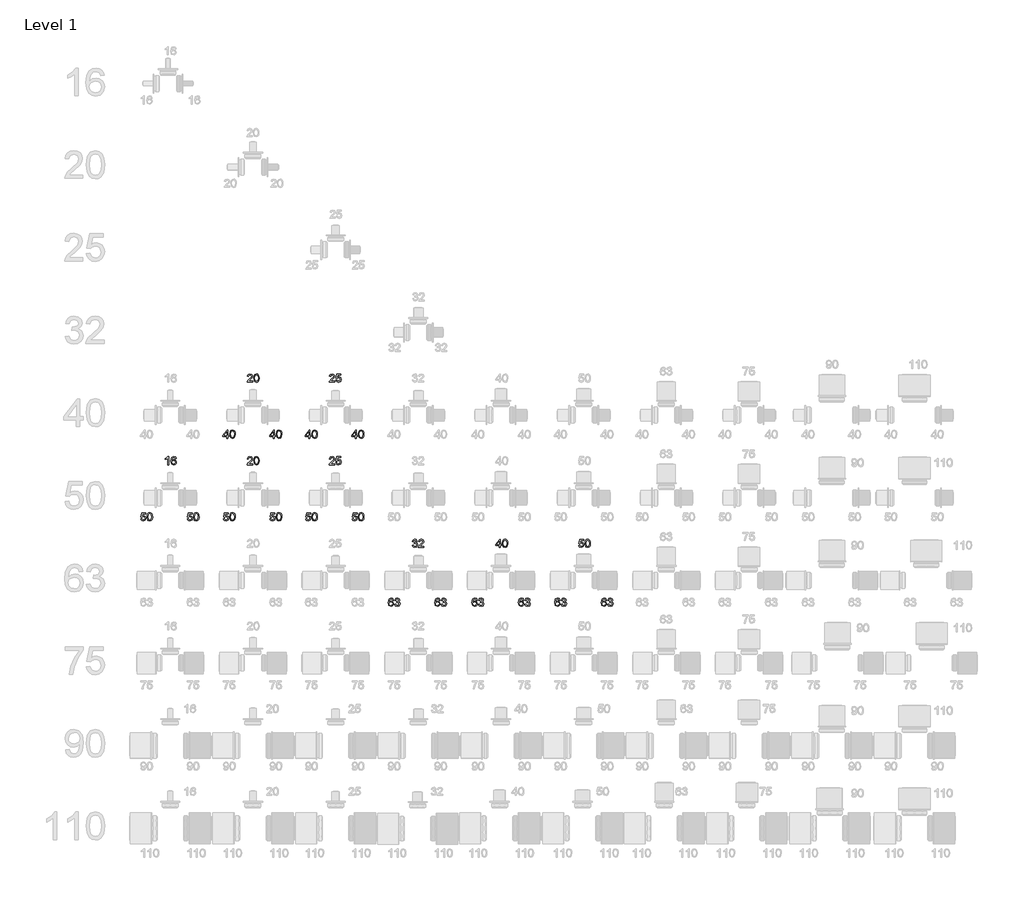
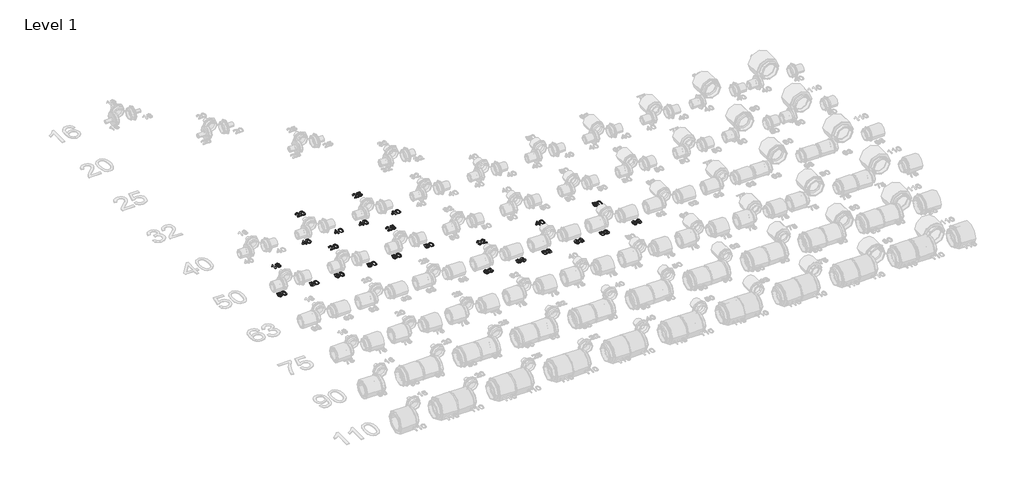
# One storey, part 21 of 58: 24 proxies.
"""IFC4 building model written with IfcOpenShell, lengths in millimetres."""

from ifc_helpers import new_model, si_unit, frame, origin, place, context, project, spatial, polyline, outline, extrude, element, save

model = new_model("IFC4")

# Units and contexts
model_context = context("Model", 3, world=origin())
ifc_project = project(units=[si_unit("LENGTHUNIT", "METRE", prefix="MILLI")], contexts=[model_context])

# Site, building, storey
site = spatial("IfcSite", under=ifc_project)
building = spatial("IfcBuilding", under=site)
storey = spatial("IfcBuildingStorey", under=building, Name="Level 1", Elevation=27.3876384)

# Proxies
placement = place(None, origin())
element("IfcBuildingElementProxy", 1, Name="30mm Arial", ObjectType="30mm Arial", at=placement, inside=storey, context=model_context, shape_type="SweptSolid", body=[
    extrude(outline(polyline([(13470.7785428, 17362.5788539), (13470.7785428, 17369.6421882), (13457.1227632, 17369.6421882), (13457.1227632, 17373.4092999), (13471.7203207, 17392.244858), (13474.5456545, 17392.244858), (13474.5456545, 17373.4092999), (13478.3127661, 17373.4092999), (13478.3127661, 17369.6421882), (13474.5456545, 17369.6421882), (13474.5456545, 17362.5788539), (13470.7785428, 17362.5788539)]), holes=[polyline([(13470.7785428, 17373.4092999), (13470.7785428, 17385.0490862), (13461.7580763, 17373.4092999), (13470.7785428, 17373.4092999)])]), frame((0.0, 0.0, 27.3876384), z_axis=(0.0, 0.0, 1.0), x_axis=(1.0, 0.0, 0.0)), (0.0, 0.0, 1.0), 2.0),
    extrude(outline(polyline([(13481.6089888, 17377.4044983), (13482.7163136, 17386.075477), (13486.0051786, 17391.0749933), (13491.4976568, 17392.715747), (13495.8975255, 17391.7445385), (13498.9362307, 17388.9449565), (13500.7020643, 17384.4862267), (13501.3863248, 17377.4044983), (13500.2900365, 17368.7703079), (13497.0122079, 17363.7597551), (13491.4976568, 17362.107965), (13484.6109058, 17364.9774445), (13481.6089888, 17377.4044983)]), holes=[polyline([(13485.3761004, 17377.411856), (13487.141934, 17368.0566168), (13491.4976568, 17365.8750766), (13495.8533796, 17368.0639745), (13497.6192132, 17377.411856), (13495.9122407, 17386.6604093), (13491.453511, 17388.9486353), (13487.2007951, 17386.932642), (13485.3761004, 17377.411856)])]), frame((0.0, 0.0, 27.3876384), z_axis=(0.0, 0.0, 1.0), x_axis=(1.0, 0.0, 0.0)), (0.0, 0.0, 1.0), 2.0),
])
element("IfcBuildingElementProxy", 2, Name="30mm Arial", ObjectType="30mm Arial", at=placement, inside=storey, context=model_context, shape_type="SweptSolid", body=[
    extrude(outline(polyline([(13639.5285428, 17362.5788539), (13639.5285428, 17369.6421882), (13625.8727632, 17369.6421882), (13625.8727632, 17373.4092999), (13640.4703207, 17392.244858), (13643.2956545, 17392.244858), (13643.2956545, 17373.4092999), (13647.0627661, 17373.4092999), (13647.0627661, 17369.6421882), (13643.2956545, 17369.6421882), (13643.2956545, 17362.5788539), (13639.5285428, 17362.5788539)]), holes=[polyline([(13639.5285428, 17373.4092999), (13639.5285428, 17385.0490862), (13630.5080763, 17373.4092999), (13639.5285428, 17373.4092999)])]), frame((0.0, 0.0, 27.3876384), z_axis=(0.0, 0.0, 1.0), x_axis=(1.0, 0.0, 0.0)), (0.0, 0.0, 1.0), 2.0),
    extrude(outline(polyline([(13650.3589888, 17377.4044983), (13651.4663136, 17386.075477), (13654.7551786, 17391.0749933), (13660.2476568, 17392.715747), (13664.6475255, 17391.7445385), (13667.6862307, 17388.9449565), (13669.4520643, 17384.4862267), (13670.1363248, 17377.4044983), (13669.0400365, 17368.7703079), (13665.7622079, 17363.7597551), (13660.2476568, 17362.107965), (13653.3609058, 17364.9774445), (13650.3589888, 17377.4044983)]), holes=[polyline([(13654.1261004, 17377.411856), (13655.891934, 17368.0566168), (13660.2476568, 17365.8750766), (13664.6033796, 17368.0639745), (13666.3692132, 17377.411856), (13664.6622407, 17386.6604093), (13660.203511, 17388.9486353), (13655.9507951, 17386.932642), (13654.1261004, 17377.411856)])]), frame((0.0, 0.0, 27.3876384), z_axis=(0.0, 0.0, 1.0), x_axis=(1.0, 0.0, 0.0)), (0.0, 0.0, 1.0), 2.0),
])
element("IfcBuildingElementProxy", 3, Name="30mm Arial", ObjectType="30mm Arial", at=placement, inside=storey, context=model_context, shape_type="SweptSolid", body=[
    extrude(outline(polyline([(13564.7700619, 17570.1646061), (13564.7700619, 17566.3974945), (13544.9927259, 17566.3974945), (13545.3973961, 17568.9947414), (13547.6856221, 17572.9936187), (13552.4018693, 17577.3603779), (13558.9060229, 17583.6364448), (13560.5320614, 17587.9038759), (13558.9979934, 17591.3582879), (13554.9917585, 17592.7672759), (13550.8162979, 17591.3913972), (13549.2307265, 17587.5874974), (13545.4636148, 17588.0583864), (13548.3514885, 17594.3638838), (13555.0726925, 17596.5343875), (13561.8159695, 17594.1210816), (13564.299173, 17588.1319628), (13563.6296278, 17584.5598286), (13561.4039417, 17580.8662934), (13556.0071128, 17575.704909), (13551.6734629, 17572.0812713), (13549.9738481, 17570.1646061), (13564.7700619, 17570.1646061)])), frame((0.0, 0.0, 27.3876384), z_axis=(0.0, 0.0, 1.0), x_axis=(1.0, 0.0, 0.0)), (0.0, 0.0, 1.0), 2.0),
    extrude(outline(polyline([(13568.5371736, 17581.2231389), (13569.6444984, 17589.8941175), (13572.9333634, 17594.8936338), (13578.4258416, 17596.5343875), (13582.8257103, 17595.5631791), (13585.8644155, 17592.7635971), (13587.6302491, 17588.3048673), (13588.3145096, 17581.2231389), (13587.2182213, 17572.5889485), (13583.9403927, 17567.5783957), (13578.4258416, 17565.9266055), (13571.5390906, 17568.7960851), (13568.5371736, 17581.2231389)]), holes=[polyline([(13572.3042852, 17581.2304965), (13574.0701188, 17571.8752574), (13578.4258416, 17569.6937172), (13582.7815644, 17571.882615), (13584.547398, 17581.2304965), (13582.8404255, 17590.4790499), (13578.3816958, 17592.7672759), (13574.1289799, 17590.7512826), (13572.3042852, 17581.2304965)])]), frame((0.0, 0.0, 27.3876384), z_axis=(0.0, 0.0, 1.0), x_axis=(1.0, 0.0, 0.0)), (0.0, 0.0, 1.0), 2.0),
])
element("IfcBuildingElementProxy", 4, Name="30mm Arial", ObjectType="30mm Arial", at=placement, inside=storey, context=model_context, shape_type="SweptSolid", body=[
    extrude(outline(polyline([(13768.7785428, 17362.5788539), (13768.7785428, 17369.6421882), (13755.1227632, 17369.6421882), (13755.1227632, 17373.4092999), (13769.7203207, 17392.244858), (13772.5456545, 17392.244858), (13772.5456545, 17373.4092999), (13776.3127661, 17373.4092999), (13776.3127661, 17369.6421882), (13772.5456545, 17369.6421882), (13772.5456545, 17362.5788539), (13768.7785428, 17362.5788539)]), holes=[polyline([(13768.7785428, 17373.4092999), (13768.7785428, 17385.0490862), (13759.7580763, 17373.4092999), (13768.7785428, 17373.4092999)])]), frame((0.0, 0.0, 27.3876384), z_axis=(0.0, 0.0, 1.0), x_axis=(1.0, 0.0, 0.0)), (0.0, 0.0, 1.0), 2.0),
    extrude(outline(polyline([(13779.6089888, 17377.4044983), (13780.7163136, 17386.075477), (13784.0051786, 17391.0749933), (13789.4976568, 17392.715747), (13793.8975255, 17391.7445385), (13796.9362307, 17388.9449565), (13798.7020643, 17384.4862267), (13799.3863248, 17377.4044983), (13798.2900365, 17368.7703079), (13795.0122079, 17363.7597551), (13789.4976568, 17362.107965), (13782.6109058, 17364.9774445), (13779.6089888, 17377.4044983)]), holes=[polyline([(13783.3761004, 17377.411856), (13785.141934, 17368.0566168), (13789.4976568, 17365.8750766), (13793.8533796, 17368.0639745), (13795.6192132, 17377.411856), (13793.9122407, 17386.6604093), (13789.453511, 17388.9486353), (13785.2007951, 17386.932642), (13783.3761004, 17377.411856)])]), frame((0.0, 0.0, 27.3876384), z_axis=(0.0, 0.0, 1.0), x_axis=(1.0, 0.0, 0.0)), (0.0, 0.0, 1.0), 2.0),
])
element("IfcBuildingElementProxy", 5, Name="30mm Arial", ObjectType="30mm Arial", at=placement, inside=storey, context=model_context, shape_type="SweptSolid", body=[
    extrude(outline(polyline([(13937.5285428, 17362.5788539), (13937.5285428, 17369.6421882), (13923.8727632, 17369.6421882), (13923.8727632, 17373.4092999), (13938.4703207, 17392.244858), (13941.2956545, 17392.244858), (13941.2956545, 17373.4092999), (13945.0627661, 17373.4092999), (13945.0627661, 17369.6421882), (13941.2956545, 17369.6421882), (13941.2956545, 17362.5788539), (13937.5285428, 17362.5788539)]), holes=[polyline([(13937.5285428, 17373.4092999), (13937.5285428, 17385.0490862), (13928.5080763, 17373.4092999), (13937.5285428, 17373.4092999)])]), frame((0.0, 0.0, 27.3876384), z_axis=(0.0, 0.0, 1.0), x_axis=(1.0, 0.0, 0.0)), (0.0, 0.0, 1.0), 2.0),
    extrude(outline(polyline([(13948.3589888, 17377.4044983), (13949.4663136, 17386.075477), (13952.7551786, 17391.0749933), (13958.2476568, 17392.715747), (13962.6475255, 17391.7445385), (13965.6862307, 17388.9449565), (13967.4520643, 17384.4862267), (13968.1363248, 17377.4044983), (13967.0400365, 17368.7703079), (13963.7622079, 17363.7597551), (13958.2476568, 17362.107965), (13951.3609058, 17364.9774445), (13948.3589888, 17377.4044983)]), holes=[polyline([(13952.1261004, 17377.411856), (13953.891934, 17368.0566168), (13958.2476568, 17365.8750766), (13962.6033796, 17368.0639745), (13964.3692132, 17377.411856), (13962.6622407, 17386.6604093), (13958.203511, 17388.9486353), (13953.9507951, 17386.932642), (13952.1261004, 17377.411856)])]), frame((0.0, 0.0, 27.3876384), z_axis=(0.0, 0.0, 1.0), x_axis=(1.0, 0.0, 0.0)), (0.0, 0.0, 1.0), 2.0),
])
element("IfcBuildingElementProxy", 6, Name="30mm Arial", ObjectType="30mm Arial", at=placement, inside=storey, context=model_context, shape_type="SweptSolid", body=[
    extrude(outline(polyline([(13862.7700619, 17570.1646061), (13862.7700619, 17566.3974945), (13842.9927259, 17566.3974945), (13843.3973961, 17568.9947414), (13845.6856221, 17572.9936187), (13850.4018693, 17577.3603779), (13856.9060229, 17583.6364448), (13858.5320614, 17587.9038759), (13856.9979934, 17591.3582879), (13852.9917585, 17592.7672759), (13848.8162979, 17591.3913972), (13847.2307265, 17587.5874974), (13843.4636148, 17588.0583864), (13846.3514885, 17594.3638838), (13853.0726925, 17596.5343875), (13859.8159695, 17594.1210816), (13862.299173, 17588.1319628), (13861.6296278, 17584.5598286), (13859.4039417, 17580.8662934), (13854.0071128, 17575.704909), (13849.6734629, 17572.0812713), (13847.9738481, 17570.1646061), (13862.7700619, 17570.1646061)])), frame((0.0, 0.0, 27.3876384), z_axis=(0.0, 0.0, 1.0), x_axis=(1.0, 0.0, 0.0)), (0.0, 0.0, 1.0), 2.0),
    extrude(outline(polyline([(13866.5371736, 17574.4026067), (13870.3042852, 17574.8734957), (13872.2025563, 17570.9923406), (13876.1388936, 17569.6937172), (13880.8624985, 17571.5000178), (13882.547398, 17576.2935202), (13880.9691842, 17580.7669652), (13876.1977548, 17582.4077189), (13872.8904956, 17581.752889), (13870.7751742, 17580.0532742), (13867.0080625, 17580.5241631), (13870.3042852, 17596.0634986), (13884.9018428, 17596.0634986), (13884.9018428, 17592.296387), (13873.3503481, 17592.296387), (13871.739025, 17583.9969691), (13877.2498973, 17586.1748306), (13883.691511, 17583.4745767), (13886.3145096, 17576.5289646), (13883.9527072, 17569.5392067), (13876.1241784, 17565.9266055), (13869.4765507, 17568.2479409), (13866.5371736, 17574.4026067)])), frame((0.0, 0.0, 27.3876384), z_axis=(0.0, 0.0, 1.0), x_axis=(1.0, 0.0, 0.0)), (0.0, 0.0, 1.0), 2.0),
])
element("IfcBuildingElementProxy", 7, Name="30mm Arial", ObjectType="30mm Arial", at=placement, inside=storey, context=model_context, shape_type="SweptSolid", body=[
    extrude(outline(polyline([(13158.53543, 17070.5839661), (13162.3025417, 17071.0548551), (13164.2008128, 17067.1737001), (13168.1371501, 17065.8750766), (13172.8607549, 17067.6813772), (13174.5456545, 17072.4748796), (13172.9674407, 17076.9483247), (13168.1960112, 17078.5890784), (13164.8887521, 17077.9342484), (13162.7734306, 17076.2346336), (13159.006319, 17076.7055225), (13162.3025417, 17092.244858), (13176.9000992, 17092.244858), (13176.9000992, 17088.4777464), (13165.3486046, 17088.4777464), (13163.7372814, 17080.1783286), (13169.2481537, 17082.35619), (13175.6897675, 17079.6559361), (13178.3127661, 17072.7103241), (13175.9509637, 17065.7205662), (13168.1224348, 17062.107965), (13161.4748072, 17064.4293004), (13158.53543, 17070.5839661)])), frame((0.0, 0.0, 27.3876384), z_axis=(0.0, 0.0, 1.0), x_axis=(1.0, 0.0, 0.0)), (0.0, 0.0, 1.0), 2.0),
    extrude(outline(polyline([(13181.6089888, 17077.4044983), (13182.7163136, 17086.075477), (13186.0051786, 17091.0749933), (13191.4976568, 17092.715747), (13195.8975255, 17091.7445385), (13198.9362307, 17088.9449565), (13200.7020643, 17084.4862267), (13201.3863248, 17077.4044983), (13200.2900365, 17068.7703079), (13197.0122079, 17063.7597551), (13191.4976568, 17062.107965), (13184.6109058, 17064.9774445), (13181.6089888, 17077.4044983)]), holes=[polyline([(13185.3761004, 17077.411856), (13187.141934, 17068.0566168), (13191.4976568, 17065.8750766), (13195.8533796, 17068.0639745), (13197.6192132, 17077.411856), (13195.9122407, 17086.6604093), (13191.453511, 17088.9486353), (13187.2007951, 17086.932642), (13185.3761004, 17077.411856)])]), frame((0.0, 0.0, 27.3876384), z_axis=(0.0, 0.0, 1.0), x_axis=(1.0, 0.0, 0.0)), (0.0, 0.0, 1.0), 2.0),
])
element("IfcBuildingElementProxy", 8, Name="30mm Arial", ObjectType="30mm Arial", at=placement, inside=storey, context=model_context, shape_type="SweptSolid", body=[
    extrude(outline(polyline([(13327.28543, 17070.5839661), (13331.0525417, 17071.0548551), (13332.9508128, 17067.1737001), (13336.8871501, 17065.8750766), (13341.6107549, 17067.6813772), (13343.2956545, 17072.4748796), (13341.7174407, 17076.9483247), (13336.9460112, 17078.5890784), (13333.6387521, 17077.9342484), (13331.5234306, 17076.2346336), (13327.756319, 17076.7055225), (13331.0525417, 17092.244858), (13345.6500992, 17092.244858), (13345.6500992, 17088.4777464), (13334.0986046, 17088.4777464), (13332.4872814, 17080.1783286), (13337.9981537, 17082.35619), (13344.4397675, 17079.6559361), (13347.0627661, 17072.7103241), (13344.7009637, 17065.7205662), (13336.8724348, 17062.107965), (13330.2248072, 17064.4293004), (13327.28543, 17070.5839661)])), frame((0.0, 0.0, 27.3876384), z_axis=(0.0, 0.0, 1.0), x_axis=(1.0, 0.0, 0.0)), (0.0, 0.0, 1.0), 2.0),
    extrude(outline(polyline([(13350.3589888, 17077.4044983), (13351.4663136, 17086.075477), (13354.7551786, 17091.0749933), (13360.2476568, 17092.715747), (13364.6475255, 17091.7445385), (13367.6862307, 17088.9449565), (13369.4520643, 17084.4862267), (13370.1363248, 17077.4044983), (13369.0400365, 17068.7703079), (13365.7622079, 17063.7597551), (13360.2476568, 17062.107965), (13353.3609058, 17064.9774445), (13350.3589888, 17077.4044983)]), holes=[polyline([(13354.1261004, 17077.411856), (13355.891934, 17068.0566168), (13360.2476568, 17065.8750766), (13364.6033796, 17068.0639745), (13366.3692132, 17077.411856), (13364.6622407, 17086.6604093), (13360.203511, 17088.9486353), (13355.9507951, 17086.932642), (13354.1261004, 17077.411856)])]), frame((0.0, 0.0, 27.3876384), z_axis=(0.0, 0.0, 1.0), x_axis=(1.0, 0.0, 0.0)), (0.0, 0.0, 1.0), 2.0),
])
element("IfcBuildingElementProxy", 9, Name="30mm Arial", ObjectType="30mm Arial", at=placement, inside=storey, context=model_context, shape_type="SweptSolid", body=[
    extrude(outline(polyline([(13259.5902834, 17266.3974945), (13255.8231718, 17266.3974945), (13255.8231718, 17289.8830811), (13252.2547165, 17287.3410165), (13248.2889486, 17285.4390666), (13248.2889486, 17289.0001643), (13253.8108573, 17292.5244738), (13257.1622623, 17296.5343875), (13259.5902834, 17296.5343875), (13259.5902834, 17266.3974945)])), frame((0.0, 0.0, 27.3876384), z_axis=(0.0, 0.0, 1.0), x_axis=(1.0, 0.0, 0.0)), (0.0, 0.0, 1.0), 2.0),
    extrude(outline(polyline([(13287.8436207, 17288.5292753), (13284.076509, 17288.0583864), (13282.6491269, 17291.2000986), (13278.8746576, 17292.7672759), (13275.475428, 17291.8549286), (13272.9039328, 17288.4299472), (13271.8333962, 17281.7161008), (13275.1553707, 17284.7216967), (13279.2719702, 17285.7039416), (13285.6731169, 17283.018403), (13288.3145096, 17276.0801486), (13287.0710685, 17270.881976), (13283.6497659, 17267.2031561), (13278.7127896, 17265.9266055), (13271.0350923, 17269.3111199), (13268.0662846, 17280.465302), (13271.3625073, 17293.0983697), (13279.1101021, 17296.5343875), (13285.0624328, 17294.4080296), (13287.8436207, 17288.5292753)]), holes=[polyline([(13271.8333962, 17276.1390097), (13272.7052766, 17272.8758964), (13275.0229331, 17270.5067364), (13278.418484, 17269.6937172), (13282.8588196, 17271.3786167), (13284.547398, 17275.9550687), (13282.8808926, 17280.3365433), (13278.2639735, 17281.93683), (13273.7059156, 17280.3365433), (13271.8333962, 17276.1390097)])]), frame((0.0, 0.0, 27.3876384), z_axis=(0.0, 0.0, 1.0), x_axis=(1.0, 0.0, 0.0)), (0.0, 0.0, 1.0), 2.0),
])
element("IfcBuildingElementProxy", 10, Name="30mm Arial", ObjectType="30mm Arial", at=placement, inside=storey, context=model_context, shape_type="SweptSolid", body=[
    extrude(outline(polyline([(13458.53543, 17070.5839661), (13462.3025417, 17071.0548551), (13464.2008128, 17067.1737001), (13468.1371501, 17065.8750766), (13472.8607549, 17067.6813772), (13474.5456545, 17072.4748796), (13472.9674407, 17076.9483247), (13468.1960112, 17078.5890784), (13464.8887521, 17077.9342484), (13462.7734306, 17076.2346336), (13459.006319, 17076.7055225), (13462.3025417, 17092.244858), (13476.9000992, 17092.244858), (13476.9000992, 17088.4777464), (13465.3486046, 17088.4777464), (13463.7372814, 17080.1783286), (13469.2481537, 17082.35619), (13475.6897675, 17079.6559361), (13478.3127661, 17072.7103241), (13475.9509637, 17065.7205662), (13468.1224348, 17062.107965), (13461.4748072, 17064.4293004), (13458.53543, 17070.5839661)])), frame((0.0, 0.0, 27.3876384), z_axis=(0.0, 0.0, 1.0), x_axis=(1.0, 0.0, 0.0)), (0.0, 0.0, 1.0), 2.0),
    extrude(outline(polyline([(13481.6089888, 17077.4044983), (13482.7163136, 17086.075477), (13486.0051786, 17091.0749933), (13491.4976568, 17092.715747), (13495.8975255, 17091.7445385), (13498.9362307, 17088.9449565), (13500.7020643, 17084.4862267), (13501.3863248, 17077.4044983), (13500.2900365, 17068.7703079), (13497.0122079, 17063.7597551), (13491.4976568, 17062.107965), (13484.6109058, 17064.9774445), (13481.6089888, 17077.4044983)]), holes=[polyline([(13485.3761004, 17077.411856), (13487.141934, 17068.0566168), (13491.4976568, 17065.8750766), (13495.8533796, 17068.0639745), (13497.6192132, 17077.411856), (13495.9122407, 17086.6604093), (13491.453511, 17088.9486353), (13487.2007951, 17086.932642), (13485.3761004, 17077.411856)])]), frame((0.0, 0.0, 27.3876384), z_axis=(0.0, 0.0, 1.0), x_axis=(1.0, 0.0, 0.0)), (0.0, 0.0, 1.0), 2.0),
])
element("IfcBuildingElementProxy", 11, Name="30mm Arial", ObjectType="30mm Arial", at=placement, inside=storey, context=model_context, shape_type="SweptSolid", body=[
    extrude(outline(polyline([(13627.28543, 17070.5839661), (13631.0525417, 17071.0548551), (13632.9508128, 17067.1737001), (13636.8871501, 17065.8750766), (13641.6107549, 17067.6813772), (13643.2956545, 17072.4748796), (13641.7174407, 17076.9483247), (13636.9460112, 17078.5890784), (13633.6387521, 17077.9342484), (13631.5234306, 17076.2346336), (13627.756319, 17076.7055225), (13631.0525417, 17092.244858), (13645.6500992, 17092.244858), (13645.6500992, 17088.4777464), (13634.0986046, 17088.4777464), (13632.4872814, 17080.1783286), (13637.9981537, 17082.35619), (13644.4397675, 17079.6559361), (13647.0627661, 17072.7103241), (13644.7009637, 17065.7205662), (13636.8724348, 17062.107965), (13630.2248072, 17064.4293004), (13627.28543, 17070.5839661)])), frame((0.0, 0.0, 27.3876384), z_axis=(0.0, 0.0, 1.0), x_axis=(1.0, 0.0, 0.0)), (0.0, 0.0, 1.0), 2.0),
    extrude(outline(polyline([(13650.3589888, 17077.4044983), (13651.4663136, 17086.075477), (13654.7551786, 17091.0749933), (13660.2476568, 17092.715747), (13664.6475255, 17091.7445385), (13667.6862307, 17088.9449565), (13669.4520643, 17084.4862267), (13670.1363248, 17077.4044983), (13669.0400365, 17068.7703079), (13665.7622079, 17063.7597551), (13660.2476568, 17062.107965), (13653.3609058, 17064.9774445), (13650.3589888, 17077.4044983)]), holes=[polyline([(13654.1261004, 17077.411856), (13655.891934, 17068.0566168), (13660.2476568, 17065.8750766), (13664.6033796, 17068.0639745), (13666.3692132, 17077.411856), (13664.6622407, 17086.6604093), (13660.203511, 17088.9486353), (13655.9507951, 17086.932642), (13654.1261004, 17077.411856)])]), frame((0.0, 0.0, 27.3876384), z_axis=(0.0, 0.0, 1.0), x_axis=(1.0, 0.0, 0.0)), (0.0, 0.0, 1.0), 2.0),
])
element("IfcBuildingElementProxy", 12, Name="30mm Arial", ObjectType="30mm Arial", at=placement, inside=storey, context=model_context, shape_type="SweptSolid", body=[
    extrude(outline(polyline([(13564.7700619, 17270.1646061), (13564.7700619, 17266.3974945), (13544.9927259, 17266.3974945), (13545.3973961, 17268.9947414), (13547.6856221, 17272.9936187), (13552.4018693, 17277.3603779), (13558.9060229, 17283.6364448), (13560.5320614, 17287.9038759), (13558.9979934, 17291.3582879), (13554.9917585, 17292.7672759), (13550.8162979, 17291.3913972), (13549.2307265, 17287.5874974), (13545.4636148, 17288.0583864), (13548.3514885, 17294.3638838), (13555.0726925, 17296.5343875), (13561.8159695, 17294.1210816), (13564.299173, 17288.1319628), (13563.6296278, 17284.5598286), (13561.4039417, 17280.8662934), (13556.0071128, 17275.704909), (13551.6734629, 17272.0812713), (13549.9738481, 17270.1646061), (13564.7700619, 17270.1646061)])), frame((0.0, 0.0, 27.3876384), z_axis=(0.0, 0.0, 1.0), x_axis=(1.0, 0.0, 0.0)), (0.0, 0.0, 1.0), 2.0),
    extrude(outline(polyline([(13568.5371736, 17281.2231389), (13569.6444984, 17289.8941175), (13572.9333634, 17294.8936338), (13578.4258416, 17296.5343875), (13582.8257103, 17295.5631791), (13585.8644155, 17292.7635971), (13587.6302491, 17288.3048673), (13588.3145096, 17281.2231389), (13587.2182213, 17272.5889485), (13583.9403927, 17267.5783957), (13578.4258416, 17265.9266055), (13571.5390906, 17268.7960851), (13568.5371736, 17281.2231389)]), holes=[polyline([(13572.3042852, 17281.2304965), (13574.0701188, 17271.8752574), (13578.4258416, 17269.6937172), (13582.7815644, 17271.882615), (13584.547398, 17281.2304965), (13582.8404255, 17290.4790499), (13578.3816958, 17292.7672759), (13574.1289799, 17290.7512826), (13572.3042852, 17281.2304965)])]), frame((0.0, 0.0, 27.3876384), z_axis=(0.0, 0.0, 1.0), x_axis=(1.0, 0.0, 0.0)), (0.0, 0.0, 1.0), 2.0),
])
element("IfcBuildingElementProxy", 13, Name="30mm Arial", ObjectType="30mm Arial", at=placement, inside=storey, context=model_context, shape_type="SweptSolid", body=[
    extrude(outline(polyline([(13756.53543, 17070.5839661), (13760.3025417, 17071.0548551), (13762.2008128, 17067.1737001), (13766.1371501, 17065.8750766), (13770.8607549, 17067.6813772), (13772.5456545, 17072.4748796), (13770.9674407, 17076.9483247), (13766.1960112, 17078.5890784), (13762.8887521, 17077.9342484), (13760.7734306, 17076.2346336), (13757.006319, 17076.7055225), (13760.3025417, 17092.244858), (13774.9000992, 17092.244858), (13774.9000992, 17088.4777464), (13763.3486046, 17088.4777464), (13761.7372814, 17080.1783286), (13767.2481537, 17082.35619), (13773.6897675, 17079.6559361), (13776.3127661, 17072.7103241), (13773.9509637, 17065.7205662), (13766.1224348, 17062.107965), (13759.4748072, 17064.4293004), (13756.53543, 17070.5839661)])), frame((0.0, 0.0, 27.3876384), z_axis=(0.0, 0.0, 1.0), x_axis=(1.0, 0.0, 0.0)), (0.0, 0.0, 1.0), 2.0),
    extrude(outline(polyline([(13779.6089888, 17077.4044983), (13780.7163136, 17086.075477), (13784.0051786, 17091.0749933), (13789.4976568, 17092.715747), (13793.8975255, 17091.7445385), (13796.9362307, 17088.9449565), (13798.7020643, 17084.4862267), (13799.3863248, 17077.4044983), (13798.2900365, 17068.7703079), (13795.0122079, 17063.7597551), (13789.4976568, 17062.107965), (13782.6109058, 17064.9774445), (13779.6089888, 17077.4044983)]), holes=[polyline([(13783.3761004, 17077.411856), (13785.141934, 17068.0566168), (13789.4976568, 17065.8750766), (13793.8533796, 17068.0639745), (13795.6192132, 17077.411856), (13793.9122407, 17086.6604093), (13789.453511, 17088.9486353), (13785.2007951, 17086.932642), (13783.3761004, 17077.411856)])]), frame((0.0, 0.0, 27.3876384), z_axis=(0.0, 0.0, 1.0), x_axis=(1.0, 0.0, 0.0)), (0.0, 0.0, 1.0), 2.0),
])
element("IfcBuildingElementProxy", 14, Name="30mm Arial", ObjectType="30mm Arial", at=placement, inside=storey, context=model_context, shape_type="SweptSolid", body=[
    extrude(outline(polyline([(13925.28543, 17070.5839661), (13929.0525417, 17071.0548551), (13930.9508128, 17067.1737001), (13934.8871501, 17065.8750766), (13939.6107549, 17067.6813772), (13941.2956545, 17072.4748796), (13939.7174407, 17076.9483247), (13934.9460112, 17078.5890784), (13931.6387521, 17077.9342484), (13929.5234306, 17076.2346336), (13925.756319, 17076.7055225), (13929.0525417, 17092.244858), (13943.6500992, 17092.244858), (13943.6500992, 17088.4777464), (13932.0986046, 17088.4777464), (13930.4872814, 17080.1783286), (13935.9981537, 17082.35619), (13942.4397675, 17079.6559361), (13945.0627661, 17072.7103241), (13942.7009637, 17065.7205662), (13934.8724348, 17062.107965), (13928.2248072, 17064.4293004), (13925.28543, 17070.5839661)])), frame((0.0, 0.0, 27.3876384), z_axis=(0.0, 0.0, 1.0), x_axis=(1.0, 0.0, 0.0)), (0.0, 0.0, 1.0), 2.0),
    extrude(outline(polyline([(13948.3589888, 17077.4044983), (13949.4663136, 17086.075477), (13952.7551786, 17091.0749933), (13958.2476568, 17092.715747), (13962.6475255, 17091.7445385), (13965.6862307, 17088.9449565), (13967.4520643, 17084.4862267), (13968.1363248, 17077.4044983), (13967.0400365, 17068.7703079), (13963.7622079, 17063.7597551), (13958.2476568, 17062.107965), (13951.3609058, 17064.9774445), (13948.3589888, 17077.4044983)]), holes=[polyline([(13952.1261004, 17077.411856), (13953.891934, 17068.0566168), (13958.2476568, 17065.8750766), (13962.6033796, 17068.0639745), (13964.3692132, 17077.411856), (13962.6622407, 17086.6604093), (13958.203511, 17088.9486353), (13953.9507951, 17086.932642), (13952.1261004, 17077.411856)])]), frame((0.0, 0.0, 27.3876384), z_axis=(0.0, 0.0, 1.0), x_axis=(1.0, 0.0, 0.0)), (0.0, 0.0, 1.0), 2.0),
])
element("IfcBuildingElementProxy", 15, Name="30mm Arial", ObjectType="30mm Arial", at=placement, inside=storey, context=model_context, shape_type="SweptSolid", body=[
    extrude(outline(polyline([(13862.7700619, 17270.1646061), (13862.7700619, 17266.3974945), (13842.9927259, 17266.3974945), (13843.3973961, 17268.9947414), (13845.6856221, 17272.9936187), (13850.4018693, 17277.3603779), (13856.9060229, 17283.6364448), (13858.5320614, 17287.9038759), (13856.9979934, 17291.3582879), (13852.9917585, 17292.7672759), (13848.8162979, 17291.3913972), (13847.2307265, 17287.5874974), (13843.4636148, 17288.0583864), (13846.3514885, 17294.3638838), (13853.0726925, 17296.5343875), (13859.8159695, 17294.1210816), (13862.299173, 17288.1319628), (13861.6296278, 17284.5598286), (13859.4039417, 17280.8662934), (13854.0071128, 17275.704909), (13849.6734629, 17272.0812713), (13847.9738481, 17270.1646061), (13862.7700619, 17270.1646061)])), frame((0.0, 0.0, 27.3876384), z_axis=(0.0, 0.0, 1.0), x_axis=(1.0, 0.0, 0.0)), (0.0, 0.0, 1.0), 2.0),
    extrude(outline(polyline([(13866.5371736, 17274.4026067), (13870.3042852, 17274.8734957), (13872.2025563, 17270.9923406), (13876.1388936, 17269.6937172), (13880.8624985, 17271.5000178), (13882.547398, 17276.2935202), (13880.9691842, 17280.7669652), (13876.1977548, 17282.4077189), (13872.8904956, 17281.752889), (13870.7751742, 17280.0532742), (13867.0080625, 17280.5241631), (13870.3042852, 17296.0634986), (13884.9018428, 17296.0634986), (13884.9018428, 17292.296387), (13873.3503481, 17292.296387), (13871.739025, 17283.9969691), (13877.2498973, 17286.1748306), (13883.691511, 17283.4745767), (13886.3145096, 17276.5289646), (13883.9527072, 17269.5392067), (13876.1241784, 17265.9266055), (13869.4765507, 17268.2479409), (13866.5371736, 17274.4026067)])), frame((0.0, 0.0, 27.3876384), z_axis=(0.0, 0.0, 1.0), x_axis=(1.0, 0.0, 0.0)), (0.0, 0.0, 1.0), 2.0),
])
element("IfcBuildingElementProxy", 16, Name="30mm Arial", ObjectType="30mm Arial", at=placement, inside=storey, context=model_context, shape_type="SweptSolid", body=[
    extrude(outline(polyline([(14075.8418771, 16774.7106348), (14072.0747655, 16774.2397458), (14070.6473834, 16777.381458), (14066.8729141, 16778.9486353), (14063.4736845, 16778.036288), (14060.9021893, 16774.6113066), (14059.8316527, 16767.8974602), (14063.1536271, 16770.9030561), (14067.2702266, 16771.885301), (14073.6713734, 16769.1997625), (14076.3127661, 16762.261508), (14075.0693249, 16757.0633355), (14071.6480224, 16753.3845155), (14066.711046, 16752.107965), (14059.0333488, 16755.4924793), (14056.0645411, 16766.6466614), (14059.3607637, 16779.2797291), (14067.1083586, 16782.715747), (14073.0606892, 16780.589389), (14075.8418771, 16774.7106348)]), holes=[polyline([(14059.8316527, 16762.3203692), (14060.703533, 16759.0572559), (14063.0211896, 16756.6880958), (14066.4167404, 16755.8750766), (14070.8570761, 16757.5599761), (14072.5456545, 16762.1364282), (14070.879149, 16766.5179027), (14066.26223, 16768.1181894), (14061.7041721, 16766.5179027), (14059.8316527, 16762.3203692)])]), frame((0.0, 0.0, 27.3876384), z_axis=(0.0, 0.0, 1.0), x_axis=(1.0, 0.0, 0.0)), (0.0, 0.0, 1.0), 2.0),
    extrude(outline(polyline([(14079.6089888, 16760.5839661), (14083.3761004, 16761.0548551), (14085.4546337, 16757.0890872), (14089.3431464, 16755.8750766), (14093.9195984, 16757.5452609), (14095.6192132, 16761.6802545), (14093.9343137, 16765.5761248), (14089.6521672, 16767.1175504), (14087.0107745, 16766.7055225), (14087.43016, 16770.4726342), (14092.3082752, 16771.5100614), (14094.2065463, 16774.8357146), (14092.8306677, 16777.7824494), (14089.2842852, 16778.9486353), (14085.693757, 16777.771413), (14083.8469893, 16774.2397458), (14080.0798777, 16774.7106348), (14083.1627288, 16780.6188196), (14089.1518477, 16782.715747), (14093.6951904, 16781.6819986), (14096.8736908, 16778.8566648), (14097.973658, 16775.0564438), (14096.9288731, 16771.5836378), (14093.8386643, 16769.0893979), (14097.9442274, 16766.5142239), (14099.3863248, 16761.6140357), (14096.50213, 16754.8744376), (14089.2107088, 16752.107965), (14082.6035482, 16754.4697674), (14079.6089888, 16760.5839661)])), frame((0.0, 0.0, 27.3876384), z_axis=(0.0, 0.0, 1.0), x_axis=(1.0, 0.0, 0.0)), (0.0, 0.0, 1.0), 2.0),
])
element("IfcBuildingElementProxy", 17, Name="30mm Arial", ObjectType="30mm Arial", at=placement, inside=storey, context=model_context, shape_type="SweptSolid", body=[
    extrude(outline(polyline([(14244.5918771, 16774.7106348), (14240.8247655, 16774.2397458), (14239.3973834, 16777.381458), (14235.6229141, 16778.9486353), (14232.2236845, 16778.036288), (14229.6521893, 16774.6113066), (14228.5816527, 16767.8974602), (14231.9036271, 16770.9030561), (14236.0202266, 16771.885301), (14242.4213734, 16769.1997625), (14245.0627661, 16762.261508), (14243.8193249, 16757.0633355), (14240.3980224, 16753.3845155), (14235.461046, 16752.107965), (14227.7833488, 16755.4924793), (14224.8145411, 16766.6466614), (14228.1107637, 16779.2797291), (14235.8583586, 16782.715747), (14241.8106892, 16780.589389), (14244.5918771, 16774.7106348)]), holes=[polyline([(14228.5816527, 16762.3203692), (14229.453533, 16759.0572559), (14231.7711896, 16756.6880958), (14235.1667404, 16755.8750766), (14239.6070761, 16757.5599761), (14241.2956545, 16762.1364282), (14239.629149, 16766.5179027), (14235.01223, 16768.1181894), (14230.4541721, 16766.5179027), (14228.5816527, 16762.3203692)])]), frame((0.0, 0.0, 27.3876384), z_axis=(0.0, 0.0, 1.0), x_axis=(1.0, 0.0, 0.0)), (0.0, 0.0, 1.0), 2.0),
    extrude(outline(polyline([(14248.3589888, 16760.5839661), (14252.1261004, 16761.0548551), (14254.2046337, 16757.0890872), (14258.0931464, 16755.8750766), (14262.6695984, 16757.5452609), (14264.3692132, 16761.6802545), (14262.6843137, 16765.5761248), (14258.4021672, 16767.1175504), (14255.7607745, 16766.7055225), (14256.18016, 16770.4726342), (14261.0582752, 16771.5100614), (14262.9565463, 16774.8357146), (14261.5806677, 16777.7824494), (14258.0342852, 16778.9486353), (14254.443757, 16777.771413), (14252.5969893, 16774.2397458), (14248.8298777, 16774.7106348), (14251.9127288, 16780.6188196), (14257.9018477, 16782.715747), (14262.4451904, 16781.6819986), (14265.6236908, 16778.8566648), (14266.723658, 16775.0564438), (14265.6788731, 16771.5836378), (14262.5886643, 16769.0893979), (14266.6942274, 16766.5142239), (14268.1363248, 16761.6140357), (14265.25213, 16754.8744376), (14257.9607088, 16752.107965), (14251.3535482, 16754.4697674), (14248.3589888, 16760.5839661)])), frame((0.0, 0.0, 27.3876384), z_axis=(0.0, 0.0, 1.0), x_axis=(1.0, 0.0, 0.0)), (0.0, 0.0, 1.0), 2.0),
])
element("IfcBuildingElementProxy", 18, Name="30mm Arial", ObjectType="30mm Arial", at=placement, inside=storey, context=model_context, shape_type="SweptSolid", body=[
    extrude(outline(polyline([(14143.4636148, 16974.4026067), (14147.2307265, 16974.8734957), (14149.3092597, 16970.9077278), (14153.1977724, 16969.6937172), (14157.7742244, 16971.3639014), (14159.4738393, 16975.4988951), (14157.7889397, 16979.3947654), (14153.5067933, 16980.9361909), (14150.8654006, 16980.5241631), (14151.284786, 16984.2912747), (14156.1629013, 16985.328702), (14158.0611724, 16988.6543552), (14156.6852937, 16991.60109), (14153.1389113, 16992.7672759), (14149.548383, 16991.5900535), (14147.7016154, 16988.0583864), (14143.9345038, 16988.5292753), (14147.0173549, 16994.4374602), (14153.0064738, 16996.5343875), (14157.5498164, 16995.5006391), (14160.7283169, 16992.6753054), (14161.828284, 16988.8750844), (14160.7834992, 16985.4022784), (14157.6932904, 16982.9080384), (14161.7988535, 16980.3328645), (14163.2409509, 16975.4326763), (14160.356756, 16968.6930781), (14153.0653349, 16965.9266055), (14146.4581743, 16968.2884079), (14143.4636148, 16974.4026067)])), frame((0.0, 0.0, 27.3876384), z_axis=(0.0, 0.0, 1.0), x_axis=(1.0, 0.0, 0.0)), (0.0, 0.0, 1.0), 2.0),
    extrude(outline(polyline([(14185.8436207, 16970.1646061), (14185.8436207, 16966.3974945), (14166.0662846, 16966.3974945), (14166.4709548, 16968.9947414), (14168.7591808, 16972.9936187), (14173.475428, 16977.3603779), (14179.9795817, 16983.6364448), (14181.6056201, 16987.9038759), (14180.0715522, 16991.3582879), (14176.0653172, 16992.7672759), (14171.8898566, 16991.3913972), (14170.3042852, 16987.5874974), (14166.5371736, 16988.0583864), (14169.4250472, 16994.3638838), (14176.1462513, 16996.5343875), (14182.8895283, 16994.1210816), (14185.3727317, 16988.1319628), (14184.7031865, 16984.5598286), (14182.4775004, 16980.8662934), (14177.0806715, 16975.704909), (14172.7470216, 16972.0812713), (14171.0474068, 16970.1646061), (14185.8436207, 16970.1646061)])), frame((0.0, 0.0, 27.3876384), z_axis=(0.0, 0.0, 1.0), x_axis=(1.0, 0.0, 0.0)), (0.0, 0.0, 1.0), 2.0),
])
element("IfcBuildingElementProxy", 19, Name="30mm Arial", ObjectType="30mm Arial", at=placement, inside=storey, context=model_context, shape_type="SweptSolid", body=[
    extrude(outline(polyline([(14379.8418771, 16774.7106348), (14376.0747655, 16774.2397458), (14374.6473834, 16777.381458), (14370.8729141, 16778.9486353), (14367.4736845, 16778.036288), (14364.9021893, 16774.6113066), (14363.8316527, 16767.8974602), (14367.1536271, 16770.9030561), (14371.2702266, 16771.885301), (14377.6713734, 16769.1997625), (14380.3127661, 16762.261508), (14379.0693249, 16757.0633355), (14375.6480224, 16753.3845155), (14370.711046, 16752.107965), (14363.0333488, 16755.4924793), (14360.0645411, 16766.6466614), (14363.3607637, 16779.2797291), (14371.1083586, 16782.715747), (14377.0606892, 16780.589389), (14379.8418771, 16774.7106348)]), holes=[polyline([(14363.8316527, 16762.3203692), (14364.703533, 16759.0572559), (14367.0211896, 16756.6880958), (14370.4167404, 16755.8750766), (14374.8570761, 16757.5599761), (14376.5456545, 16762.1364282), (14374.879149, 16766.5179027), (14370.26223, 16768.1181894), (14365.7041721, 16766.5179027), (14363.8316527, 16762.3203692)])]), frame((0.0, 0.0, 27.3876384), z_axis=(0.0, 0.0, 1.0), x_axis=(1.0, 0.0, 0.0)), (0.0, 0.0, 1.0), 2.0),
    extrude(outline(polyline([(14383.6089888, 16760.5839661), (14387.3761004, 16761.0548551), (14389.4546337, 16757.0890872), (14393.3431464, 16755.8750766), (14397.9195984, 16757.5452609), (14399.6192132, 16761.6802545), (14397.9343137, 16765.5761248), (14393.6521672, 16767.1175504), (14391.0107745, 16766.7055225), (14391.43016, 16770.4726342), (14396.3082752, 16771.5100614), (14398.2065463, 16774.8357146), (14396.8306677, 16777.7824494), (14393.2842852, 16778.9486353), (14389.693757, 16777.771413), (14387.8469893, 16774.2397458), (14384.0798777, 16774.7106348), (14387.1627288, 16780.6188196), (14393.1518477, 16782.715747), (14397.6951904, 16781.6819986), (14400.8736908, 16778.8566648), (14401.973658, 16775.0564438), (14400.9288731, 16771.5836378), (14397.8386643, 16769.0893979), (14401.9442274, 16766.5142239), (14403.3863248, 16761.6140357), (14400.50213, 16754.8744376), (14393.2107088, 16752.107965), (14386.6035482, 16754.4697674), (14383.6089888, 16760.5839661)])), frame((0.0, 0.0, 27.3876384), z_axis=(0.0, 0.0, 1.0), x_axis=(1.0, 0.0, 0.0)), (0.0, 0.0, 1.0), 2.0),
])
element("IfcBuildingElementProxy", 20, Name="30mm Arial", ObjectType="30mm Arial", at=placement, inside=storey, context=model_context, shape_type="SweptSolid", body=[
    extrude(outline(polyline([(14548.5918771, 16774.7106348), (14544.8247655, 16774.2397458), (14543.3973834, 16777.381458), (14539.6229141, 16778.9486353), (14536.2236845, 16778.036288), (14533.6521893, 16774.6113066), (14532.5816527, 16767.8974602), (14535.9036271, 16770.9030561), (14540.0202266, 16771.885301), (14546.4213734, 16769.1997625), (14549.0627661, 16762.261508), (14547.8193249, 16757.0633355), (14544.3980224, 16753.3845155), (14539.461046, 16752.107965), (14531.7833488, 16755.4924793), (14528.8145411, 16766.6466614), (14532.1107637, 16779.2797291), (14539.8583586, 16782.715747), (14545.8106892, 16780.589389), (14548.5918771, 16774.7106348)]), holes=[polyline([(14532.5816527, 16762.3203692), (14533.453533, 16759.0572559), (14535.7711896, 16756.6880958), (14539.1667404, 16755.8750766), (14543.6070761, 16757.5599761), (14545.2956545, 16762.1364282), (14543.629149, 16766.5179027), (14539.01223, 16768.1181894), (14534.4541721, 16766.5179027), (14532.5816527, 16762.3203692)])]), frame((0.0, 0.0, 27.3876384), z_axis=(0.0, 0.0, 1.0), x_axis=(1.0, 0.0, 0.0)), (0.0, 0.0, 1.0), 2.0),
    extrude(outline(polyline([(14552.3589888, 16760.5839661), (14556.1261004, 16761.0548551), (14558.2046337, 16757.0890872), (14562.0931464, 16755.8750766), (14566.6695984, 16757.5452609), (14568.3692132, 16761.6802545), (14566.6843137, 16765.5761248), (14562.4021672, 16767.1175504), (14559.7607745, 16766.7055225), (14560.18016, 16770.4726342), (14565.0582752, 16771.5100614), (14566.9565463, 16774.8357146), (14565.5806677, 16777.7824494), (14562.0342852, 16778.9486353), (14558.443757, 16777.771413), (14556.5969893, 16774.2397458), (14552.8298777, 16774.7106348), (14555.9127288, 16780.6188196), (14561.9018477, 16782.715747), (14566.4451904, 16781.6819986), (14569.6236908, 16778.8566648), (14570.723658, 16775.0564438), (14569.6788731, 16771.5836378), (14566.5886643, 16769.0893979), (14570.6942274, 16766.5142239), (14572.1363248, 16761.6140357), (14569.25213, 16754.8744376), (14561.9607088, 16752.107965), (14555.3535482, 16754.4697674), (14552.3589888, 16760.5839661)])), frame((0.0, 0.0, 27.3876384), z_axis=(0.0, 0.0, 1.0), x_axis=(1.0, 0.0, 0.0)), (0.0, 0.0, 1.0), 2.0),
])
element("IfcBuildingElementProxy", 21, Name="30mm Arial", ObjectType="30mm Arial", at=placement, inside=storey, context=model_context, shape_type="SweptSolid", body=[
    extrude(outline(polyline([(14459.7067276, 16966.3974945), (14459.7067276, 16973.4608288), (14446.050948, 16973.4608288), (14446.050948, 16977.2279404), (14460.6485055, 16996.0634986), (14463.4738393, 16996.0634986), (14463.4738393, 16977.2279404), (14467.2409509, 16977.2279404), (14467.2409509, 16973.4608288), (14463.4738393, 16973.4608288), (14463.4738393, 16966.3974945), (14459.7067276, 16966.3974945)]), holes=[polyline([(14459.7067276, 16977.2279404), (14459.7067276, 16988.8677268), (14450.6862611, 16977.2279404), (14459.7067276, 16977.2279404)])]), frame((0.0, 0.0, 27.3876384), z_axis=(0.0, 0.0, 1.0), x_axis=(1.0, 0.0, 0.0)), (0.0, 0.0, 1.0), 2.0),
    extrude(outline(polyline([(14470.5371736, 16981.2231389), (14471.6444984, 16989.8941175), (14474.9333634, 16994.8936338), (14480.4258416, 16996.5343875), (14484.8257103, 16995.5631791), (14487.8644155, 16992.7635971), (14489.6302491, 16988.3048673), (14490.3145096, 16981.2231389), (14489.2182213, 16972.5889485), (14485.9403927, 16967.5783957), (14480.4258416, 16965.9266055), (14473.5390906, 16968.7960851), (14470.5371736, 16981.2231389)]), holes=[polyline([(14474.3042852, 16981.2304965), (14476.0701188, 16971.8752574), (14480.4258416, 16969.6937172), (14484.7815644, 16971.882615), (14486.547398, 16981.2304965), (14484.8404255, 16990.4790499), (14480.3816958, 16992.7672759), (14476.1289799, 16990.7512826), (14474.3042852, 16981.2304965)])]), frame((0.0, 0.0, 27.3876384), z_axis=(0.0, 0.0, 1.0), x_axis=(1.0, 0.0, 0.0)), (0.0, 0.0, 1.0), 2.0),
])
element("IfcBuildingElementProxy", 22, Name="30mm Arial", ObjectType="30mm Arial", at=placement, inside=storey, context=model_context, shape_type="SweptSolid", body=[
    extrude(outline(polyline([(14679.8418771, 16774.7106348), (14676.0747655, 16774.2397458), (14674.6473834, 16777.381458), (14670.8729141, 16778.9486353), (14667.4736845, 16778.036288), (14664.9021893, 16774.6113066), (14663.8316527, 16767.8974602), (14667.1536271, 16770.9030561), (14671.2702266, 16771.885301), (14677.6713734, 16769.1997625), (14680.3127661, 16762.261508), (14679.0693249, 16757.0633355), (14675.6480224, 16753.3845155), (14670.711046, 16752.107965), (14663.0333488, 16755.4924793), (14660.0645411, 16766.6466614), (14663.3607637, 16779.2797291), (14671.1083586, 16782.715747), (14677.0606892, 16780.589389), (14679.8418771, 16774.7106348)]), holes=[polyline([(14663.8316527, 16762.3203692), (14664.703533, 16759.0572559), (14667.0211896, 16756.6880958), (14670.4167404, 16755.8750766), (14674.8570761, 16757.5599761), (14676.5456545, 16762.1364282), (14674.879149, 16766.5179027), (14670.26223, 16768.1181894), (14665.7041721, 16766.5179027), (14663.8316527, 16762.3203692)])]), frame((0.0, 0.0, 27.3876384), z_axis=(0.0, 0.0, 1.0), x_axis=(1.0, 0.0, 0.0)), (0.0, 0.0, 1.0), 2.0),
    extrude(outline(polyline([(14683.6089888, 16760.5839661), (14687.3761004, 16761.0548551), (14689.4546337, 16757.0890872), (14693.3431464, 16755.8750766), (14697.9195984, 16757.5452609), (14699.6192132, 16761.6802545), (14697.9343137, 16765.5761248), (14693.6521672, 16767.1175504), (14691.0107745, 16766.7055225), (14691.43016, 16770.4726342), (14696.3082752, 16771.5100614), (14698.2065463, 16774.8357146), (14696.8306677, 16777.7824494), (14693.2842852, 16778.9486353), (14689.693757, 16777.771413), (14687.8469893, 16774.2397458), (14684.0798777, 16774.7106348), (14687.1627288, 16780.6188196), (14693.1518477, 16782.715747), (14697.6951904, 16781.6819986), (14700.8736908, 16778.8566648), (14701.973658, 16775.0564438), (14700.9288731, 16771.5836378), (14697.8386643, 16769.0893979), (14701.9442274, 16766.5142239), (14703.3863248, 16761.6140357), (14700.50213, 16754.8744376), (14693.2107088, 16752.107965), (14686.6035482, 16754.4697674), (14683.6089888, 16760.5839661)])), frame((0.0, 0.0, 27.3876384), z_axis=(0.0, 0.0, 1.0), x_axis=(1.0, 0.0, 0.0)), (0.0, 0.0, 1.0), 2.0),
])
element("IfcBuildingElementProxy", 23, Name="30mm Arial", ObjectType="30mm Arial", at=placement, inside=storey, context=model_context, shape_type="SweptSolid", body=[
    extrude(outline(polyline([(14848.5918771, 16774.7106348), (14844.8247655, 16774.2397458), (14843.3973834, 16777.381458), (14839.6229141, 16778.9486353), (14836.2236845, 16778.036288), (14833.6521893, 16774.6113066), (14832.5816527, 16767.8974602), (14835.9036271, 16770.9030561), (14840.0202266, 16771.885301), (14846.4213734, 16769.1997625), (14849.0627661, 16762.261508), (14847.8193249, 16757.0633355), (14844.3980224, 16753.3845155), (14839.461046, 16752.107965), (14831.7833488, 16755.4924793), (14828.8145411, 16766.6466614), (14832.1107637, 16779.2797291), (14839.8583586, 16782.715747), (14845.8106892, 16780.589389), (14848.5918771, 16774.7106348)]), holes=[polyline([(14832.5816527, 16762.3203692), (14833.453533, 16759.0572559), (14835.7711896, 16756.6880958), (14839.1667404, 16755.8750766), (14843.6070761, 16757.5599761), (14845.2956545, 16762.1364282), (14843.629149, 16766.5179027), (14839.01223, 16768.1181894), (14834.4541721, 16766.5179027), (14832.5816527, 16762.3203692)])]), frame((0.0, 0.0, 27.3876384), z_axis=(0.0, 0.0, 1.0), x_axis=(1.0, 0.0, 0.0)), (0.0, 0.0, 1.0), 2.0),
    extrude(outline(polyline([(14852.3589888, 16760.5839661), (14856.1261004, 16761.0548551), (14858.2046337, 16757.0890872), (14862.0931464, 16755.8750766), (14866.6695984, 16757.5452609), (14868.3692132, 16761.6802545), (14866.6843137, 16765.5761248), (14862.4021672, 16767.1175504), (14859.7607745, 16766.7055225), (14860.18016, 16770.4726342), (14865.0582752, 16771.5100614), (14866.9565463, 16774.8357146), (14865.5806677, 16777.7824494), (14862.0342852, 16778.9486353), (14858.443757, 16777.771413), (14856.5969893, 16774.2397458), (14852.8298777, 16774.7106348), (14855.9127288, 16780.6188196), (14861.9018477, 16782.715747), (14866.4451904, 16781.6819986), (14869.6236908, 16778.8566648), (14870.723658, 16775.0564438), (14869.6788731, 16771.5836378), (14866.5886643, 16769.0893979), (14870.6942274, 16766.5142239), (14872.1363248, 16761.6140357), (14869.25213, 16754.8744376), (14861.9607088, 16752.107965), (14855.3535482, 16754.4697674), (14852.3589888, 16760.5839661)])), frame((0.0, 0.0, 27.3876384), z_axis=(0.0, 0.0, 1.0), x_axis=(1.0, 0.0, 0.0)), (0.0, 0.0, 1.0), 2.0),
])
element("IfcBuildingElementProxy", 24, Name="30mm Arial", ObjectType="30mm Arial", at=placement, inside=storey, context=model_context, shape_type="SweptSolid", body=[
    extrude(outline(polyline([(14747.4636148, 16974.4026067), (14751.2307265, 16974.8734957), (14753.1289976, 16970.9923406), (14757.0653349, 16969.6937172), (14761.7889397, 16971.5000178), (14763.4738393, 16976.2935202), (14761.8956255, 16980.7669652), (14757.124196, 16982.4077189), (14753.8169369, 16981.752889), (14751.7016154, 16980.0532742), (14747.9345038, 16980.5241631), (14751.2307265, 16996.0634986), (14765.828284, 16996.0634986), (14765.828284, 16992.296387), (14754.2767894, 16992.296387), (14752.6654662, 16983.9969691), (14758.1763385, 16986.1748306), (14764.6179523, 16983.4745767), (14767.2409509, 16976.5289646), (14764.8791485, 16969.5392067), (14757.0506196, 16965.9266055), (14750.402992, 16968.2479409), (14747.4636148, 16974.4026067)])), frame((0.0, 0.0, 27.3876384), z_axis=(0.0, 0.0, 1.0), x_axis=(1.0, 0.0, 0.0)), (0.0, 0.0, 1.0), 2.0),
    extrude(outline(polyline([(14770.5371736, 16981.2231389), (14771.6444984, 16989.8941175), (14774.9333634, 16994.8936338), (14780.4258416, 16996.5343875), (14784.8257103, 16995.5631791), (14787.8644155, 16992.7635971), (14789.6302491, 16988.3048673), (14790.3145096, 16981.2231389), (14789.2182213, 16972.5889485), (14785.9403927, 16967.5783957), (14780.4258416, 16965.9266055), (14773.5390906, 16968.7960851), (14770.5371736, 16981.2231389)]), holes=[polyline([(14774.3042852, 16981.2304965), (14776.0701188, 16971.8752574), (14780.4258416, 16969.6937172), (14784.7815644, 16971.882615), (14786.547398, 16981.2304965), (14784.8404255, 16990.4790499), (14780.3816958, 16992.7672759), (14776.1289799, 16990.7512826), (14774.3042852, 16981.2304965)])]), frame((0.0, 0.0, 27.3876384), z_axis=(0.0, 0.0, 1.0), x_axis=(1.0, 0.0, 0.0)), (0.0, 0.0, 1.0), 2.0),
])

save(model, "model.ifc")
